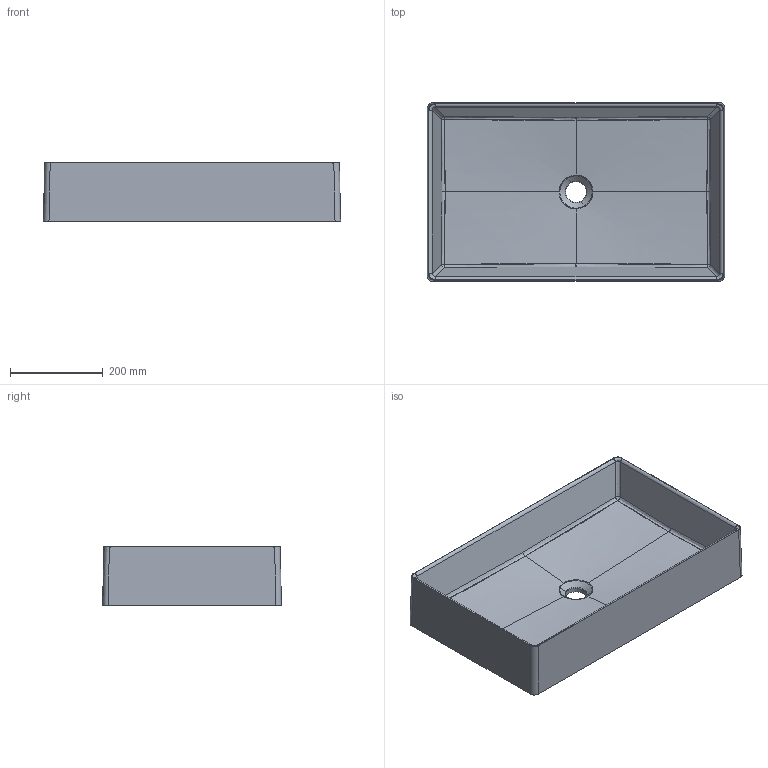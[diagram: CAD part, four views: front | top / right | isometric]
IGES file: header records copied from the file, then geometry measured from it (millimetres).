
Start section: START RECORD GO HERE.
Global section: file name: 3D ART 8132 NILO.igs; native system: DASSAULT SYSTEMES CATIA V5 R19 - www.3ds.com; preprocessor: CATIA Version 5 Release 19 SP 5 ; author: Luca; organization: DESKTOP-V7SON24; date: 20200901.092652; units: millimetre
Bounding box: 640.24 x 385.24 x 125 mm (x, y, z)
Surface area: 891108.9 mm2 (no closed solid volume)
Topology: 0 solids, 0 shells, 87 faces, 400 edges, 400 vertices
Faces by surface type: bspline 58, revolution 26, plane 3
